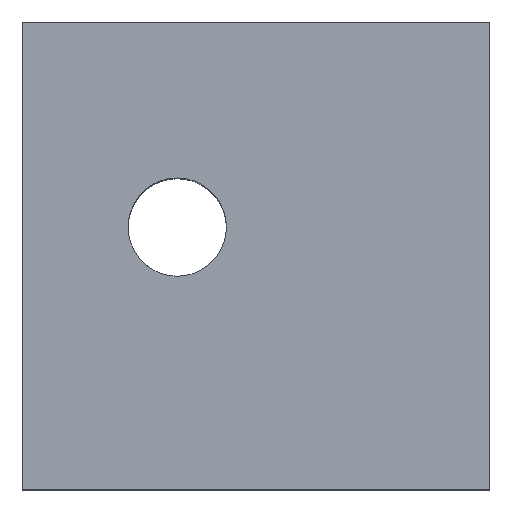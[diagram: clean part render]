
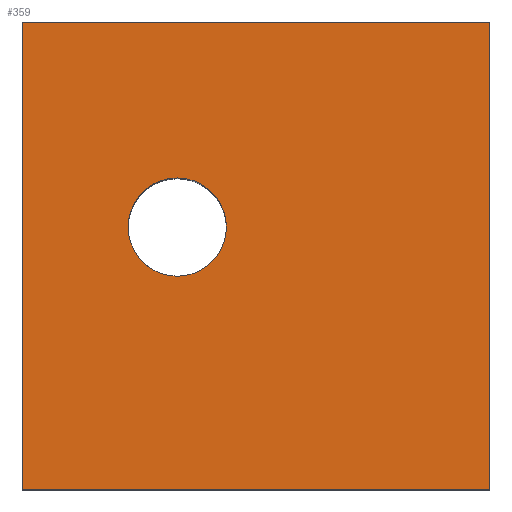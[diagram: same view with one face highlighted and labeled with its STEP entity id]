
A CAD part, top view. The second image highlights one B-rep face of the part: STEP entity #359.
In plain terms, the highlighted planar face has unit normal (0, 0, 1).
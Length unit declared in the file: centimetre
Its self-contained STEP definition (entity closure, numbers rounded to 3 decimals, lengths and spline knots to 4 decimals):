
#6 = EDGE_CURVE ( 'NONE', #1738, #1406, #2711, .T. ) ;
#37 = DIRECTION ( 'NONE',  ( 0., 0., 1. ) ) ;
#38 = EDGE_CURVE ( 'NONE', #448, #1049, #1083, .T. ) ;
#58 = CARTESIAN_POINT ( 'NONE',  ( 0., 1000., 1000. ) ) ;
#86 = FACE_BOUND ( 'NONE', #2181, .T. ) ;
#251 = DIRECTION ( 'NONE',  ( 0., -1., 0. ) ) ;
#273 = CARTESIAN_POINT ( 'NONE',  ( 331.4707, 561.0466, 1000. ) ) ;
#305 = ORIENTED_EDGE ( 'NONE', *, *, #2268, .F. ) ;
#307 = LINE ( 'NONE', #58, #2464 ) ;
#322 = VECTOR ( 'NONE', #577, 100. ) ;
#350 = CARTESIAN_POINT ( 'NONE',  ( 226.2515, 561.0466, 1000. ) ) ;
#359 = ADVANCED_FACE ( 'NONE', ( #86, #1553 ), #1744, .T. ) ;
#373 = ORIENTED_EDGE ( 'NONE', *, *, #38, .F. ) ;
#448 = VERTEX_POINT ( 'NONE', #1569 ) ;
#474 = CARTESIAN_POINT ( 'NONE',  ( 0., 0., 1000. ) ) ;
#554 = ORIENTED_EDGE ( 'NONE', *, *, #2726, .T. ) ;
#577 = DIRECTION ( 'NONE',  ( -1., 0., 0. ) ) ;
#630 = AXIS2_PLACEMENT_3D ( 'NONE', #273, #37, #1751 ) ;
#824 = AXIS2_PLACEMENT_3D ( 'NONE', #474, #2160, #1130 ) ;
#844 = CARTESIAN_POINT ( 'NONE',  ( 1000., 1000., 1000. ) ) ;
#884 = EDGE_CURVE ( 'NONE', #2466, #1738, #307, .T. ) ;
#1011 = CARTESIAN_POINT ( 'NONE',  ( 0., 1000., 1000. ) ) ;
#1012 = DIRECTION ( 'NONE',  ( 0., 0., 1. ) ) ;
#1049 = VERTEX_POINT ( 'NONE', #350 ) ;
#1083 = CIRCLE ( 'NONE', #2647, 105.2193 ) ;
#1130 = DIRECTION ( 'NONE',  ( 1., 0., 0. ) ) ;
#1203 = ORIENTED_EDGE ( 'NONE', *, *, #2660, .T. ) ;
#1222 = CARTESIAN_POINT ( 'NONE',  ( 0., 0., 1000. ) ) ;
#1382 = CARTESIAN_POINT ( 'NONE',  ( 1000., 1000., 1000. ) ) ;
#1398 = ORIENTED_EDGE ( 'NONE', *, *, #884, .T. ) ;
#1406 = VERTEX_POINT ( 'NONE', #2510 ) ;
#1407 = LINE ( 'NONE', #1382, #1512 ) ;
#1512 = VECTOR ( 'NONE', #1852, 100. ) ;
#1553 = FACE_OUTER_BOUND ( 'NONE', #2239, .T. ) ;
#1569 = CARTESIAN_POINT ( 'NONE',  ( 436.69, 561.0466, 1000. ) ) ;
#1584 = VERTEX_POINT ( 'NONE', #844 ) ;
#1616 = CARTESIAN_POINT ( 'NONE',  ( 0., 1000., 1000. ) ) ;
#1628 = LINE ( 'NONE', #1616, #322 ) ;
#1645 = DIRECTION ( 'NONE',  ( 1., 0., 0. ) ) ;
#1738 = VERTEX_POINT ( 'NONE', #1983 ) ;
#1744 = PLANE ( 'NONE',  #824 ) ;
#1751 = DIRECTION ( 'NONE',  ( 1., 0., 0. ) ) ;
#1852 = DIRECTION ( 'NONE',  ( 0., 1., 0. ) ) ;
#1869 = DIRECTION ( 'NONE',  ( 1., 0., 0. ) ) ;
#1983 = CARTESIAN_POINT ( 'NONE',  ( 0., 0., 1000. ) ) ;
#2160 = DIRECTION ( 'NONE',  ( 0., 0., 1. ) ) ;
#2181 = EDGE_LOOP ( 'NONE', ( #373, #305 ) ) ;
#2239 = EDGE_LOOP ( 'NONE', ( #1398, #2734, #1203, #554 ) ) ;
#2268 = EDGE_CURVE ( 'NONE', #1049, #448, #2458, .T. ) ;
#2281 = CARTESIAN_POINT ( 'NONE',  ( 331.4707, 561.0466, 1000. ) ) ;
#2458 = CIRCLE ( 'NONE', #630, 105.2193 ) ;
#2464 = VECTOR ( 'NONE', #251, 100. ) ;
#2466 = VERTEX_POINT ( 'NONE', #1011 ) ;
#2510 = CARTESIAN_POINT ( 'NONE',  ( 1000., 0., 1000. ) ) ;
#2559 = VECTOR ( 'NONE', #1645, 100. ) ;
#2647 = AXIS2_PLACEMENT_3D ( 'NONE', #2281, #1012, #1869 ) ;
#2660 = EDGE_CURVE ( 'NONE', #1406, #1584, #1407, .T. ) ;
#2711 = LINE ( 'NONE', #1222, #2559 ) ;
#2726 = EDGE_CURVE ( 'NONE', #1584, #2466, #1628, .T. ) ;
#2734 = ORIENTED_EDGE ( 'NONE', *, *, #6, .T. ) ;
